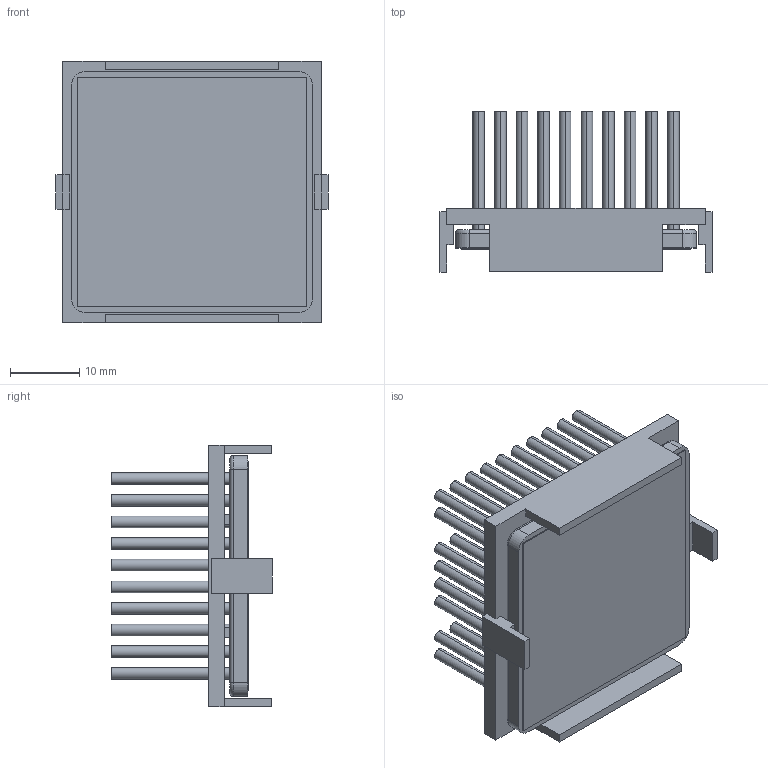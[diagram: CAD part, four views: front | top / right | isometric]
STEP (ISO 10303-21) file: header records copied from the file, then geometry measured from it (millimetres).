
FILE_DESCRIPTION (( 'STEP AP214' ), '1' );
FILE_NAME ('INM35002-20PCU-2.6Y.STEP', '2023-02-28T22:54:36', ( '' ), ( '' ), 'SwSTEP 2.0', 'SolidWorks 2020', '' );
FILE_SCHEMA (( 'AUTOMOTIVE_DESIGN' ));
Length unit declared in the file: inch
Products named in the file (1): INM35002-20PCU-2.6Y
Bounding box: 39.2 x 23.1 x 37.7 mm (x, y, z)
Volume: 8464.9 mm3; surface area: 15869.3 mm2
Topology: 3 solids, 3 shells, 358 faces, 772 edges, 512 vertices
Faces by surface type: cylinder 192, plane 162, torus 4
Entity records: 14600 total; most frequent: DIRECTION 1878, CARTESIAN_POINT 1643, ORIENTED_EDGE 1544, EDGE_CURVE 772, AXIS2_PLACEMENT_3D 747, VERTEX_POINT 512, EDGE_LOOP 452, CIRCLE 388
